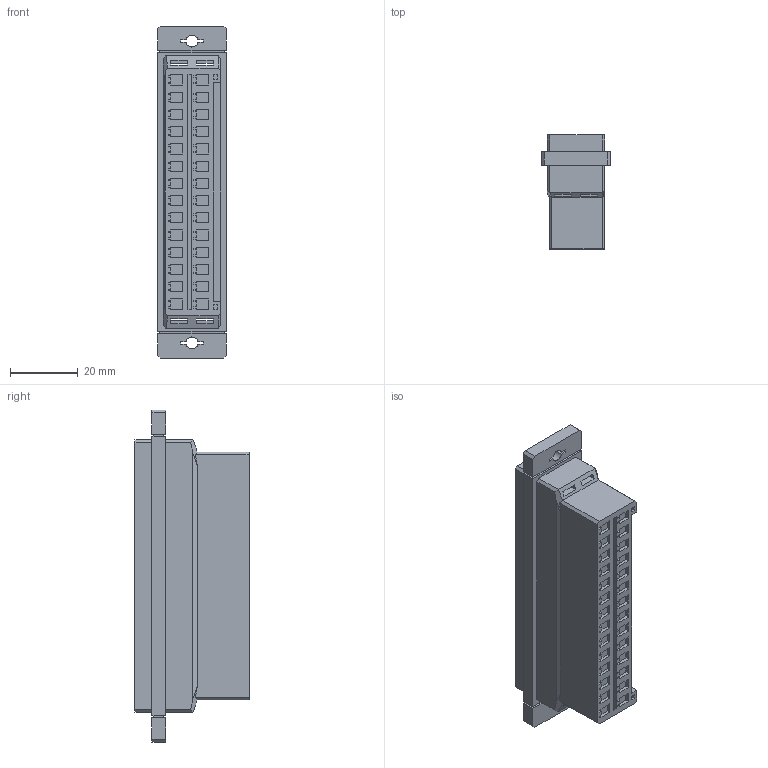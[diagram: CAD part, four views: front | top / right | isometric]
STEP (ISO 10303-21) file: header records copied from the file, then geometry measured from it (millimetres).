
FILE_DESCRIPTION (( 'STEP AP203' ), '1' );
FILE_NAME ('HC-5084-14EY-05（5.08 母孔座 带过孔-HCTL）.STEP', '2024-08-10T07:00:00', ( '' ), ( '' ), 'SwSTEP 2.0', 'SolidWorks 2022', '' );
FILE_SCHEMA (( 'CONFIG_CONTROL_DESIGN' ));
Length unit declared in the file: millimetre
Products named in the file (1): HC-5084-14EY-05（5.08 母孔座 带过孔-HCTL）
Bounding box: 20.32 x 33.6 x 97.79 mm (x, y, z)
Volume: 39517.7 mm3; surface area: 15334 mm2
Topology: 1 solids, 1 shells, 875 faces, 2348 edges, 1564 vertices
Faces by surface type: plane 869, cylinder 6
Entity records: 26863 total; most frequent: CARTESIAN_POINT 4788, ORIENTED_EDGE 4696, DIRECTION 4112, EDGE_CURVE 2348, VECTOR 2336, LINE 2336, VERTEX_POINT 1564, EDGE_LOOP 976
